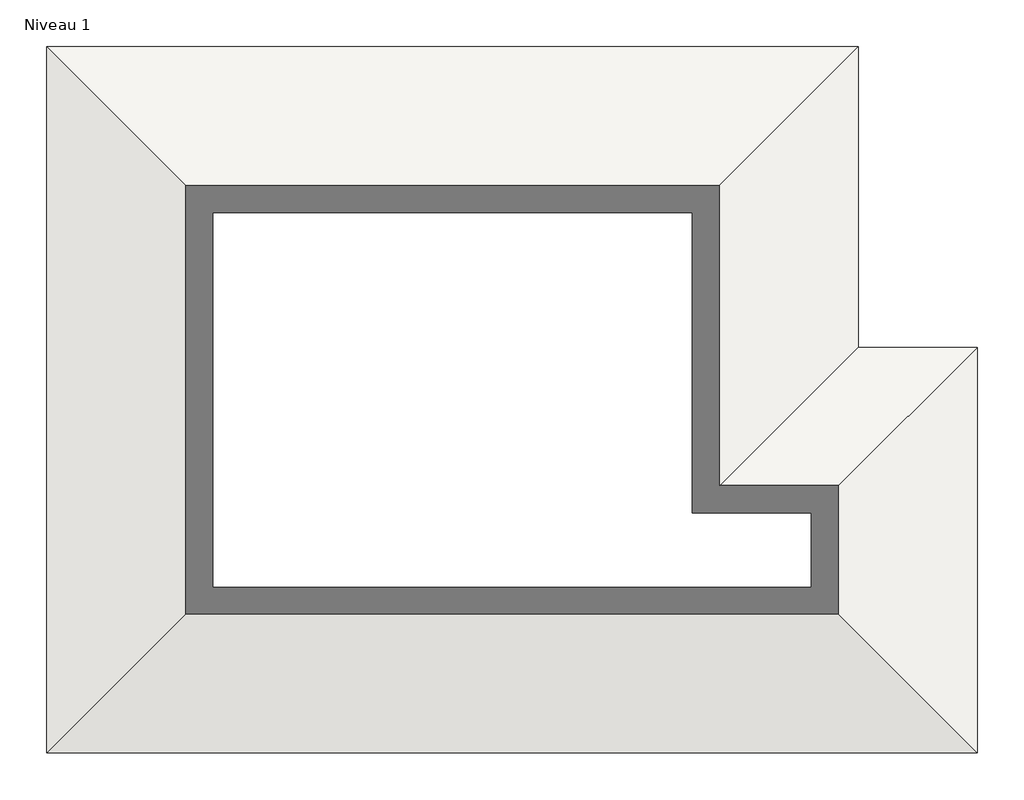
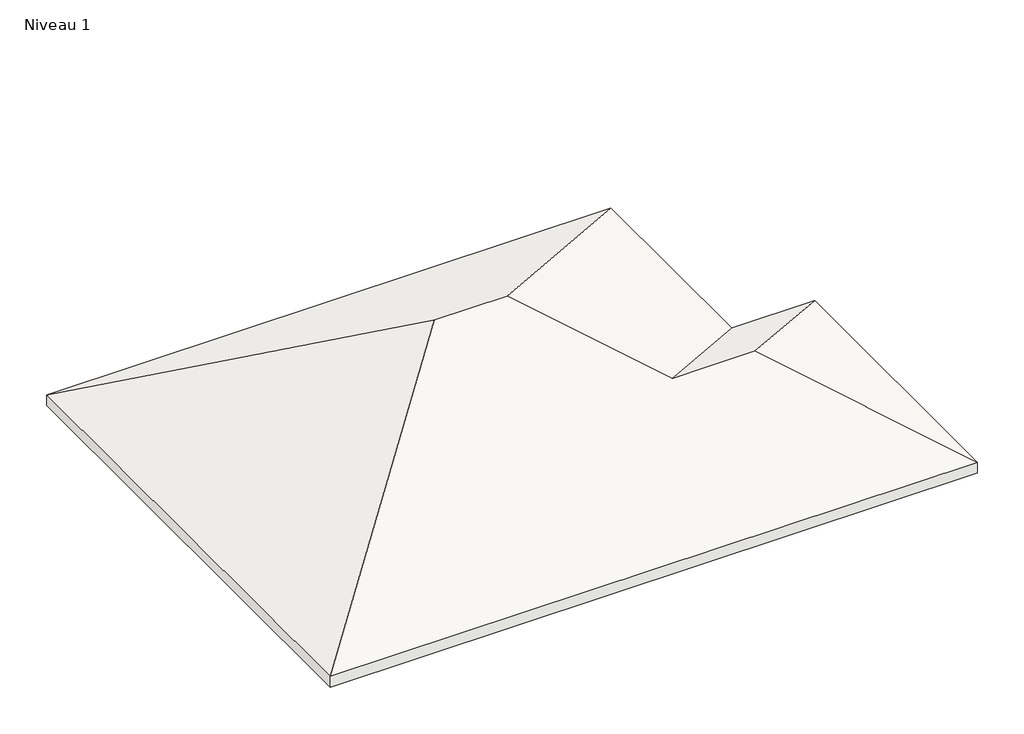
# One storey: 1 roof.
"""IFC4 building model written with IfcOpenShell, lengths in millimetres."""

from ifc_helpers import new_model, si_unit, origin, place, context, project, spatial, faceted_brep, element, save

model = new_model("IFC4")

# Units and contexts
model_context = context("Model", 3, world=origin())
ifc_project = project(units=[si_unit("LENGTHUNIT", "METRE", prefix="MILLI")], contexts=[model_context])

# Site, building, storey
site = spatial("IfcSite", under=ifc_project)
building = spatial("IfcBuilding", under=site)
storey = spatial("IfcBuildingStorey", under=building, Name="Niveau 1", Elevation=3000.0)

# Roof
placement = place(None, origin())
element("IfcRoof", 1, ObjectType="Toit - 200 mm", at=placement, inside=storey, context=model_context, shape_type="Brep", body=[
    faceted_brep([(-1301.7237534, 2537.4041873, 2826.7949192), (398.2762466, 2537.4041873, 2826.7949192), (-2501.7237534, -362.5958127, 4501.1106999), (-4201.7237534, -362.5958127, 4501.1106999), (-6351.7237534, 1787.4041873, 5742.4137787), (-1301.7237534, 6837.4041873, 2826.7949192), (-12901.7237534, 6837.4041873, 2826.7949192), (-7851.7237534, 1787.4041873, 5742.4137787), (-12901.7237534, -3262.5958127, 2826.7949192), (398.2762466, -3262.5958127, 2826.7949192), (-1301.7237534, 2537.4041873, 3057.7350269), (-4201.7237534, -362.5958127, 4732.0508076), (-2501.7237534, -362.5958127, 4732.0508076), (398.2762466, 2537.4041873, 3057.7350269), (-1301.7237534, 6837.4041873, 3057.7350269), (-6351.7237534, 1787.4041873, 5973.3538863), (-12901.7237534, 6837.4041873, 3057.7350269), (-12901.7237534, -3262.5958127, 3057.7350269), (-7851.7237534, 1787.4041873, 5973.3538863), (398.2762466, -3262.5958127, 3057.7350269)], [[[0, 1, 2, 3]], [[0, 3, 4, 5]], [[6, 7, 8]], [[9, 2, 1]], [[8, 7, 4, 3, 2, 9]], [[5, 4, 7, 6]], [[10, 11, 12, 13]], [[10, 14, 15, 11]], [[16, 17, 18]], [[19, 13, 12]], [[14, 16, 18, 15]], [[17, 19, 12, 11, 15, 18]], [[5, 14, 10, 0]], [[6, 16, 14, 5]], [[8, 17, 16, 6]], [[9, 19, 17, 8]], [[1, 13, 19, 9]], [[0, 10, 13, 1]]]),
])

save(model, "model.ifc")
